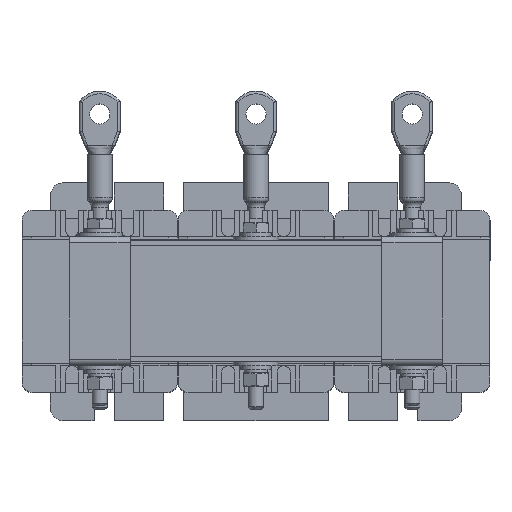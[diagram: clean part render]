
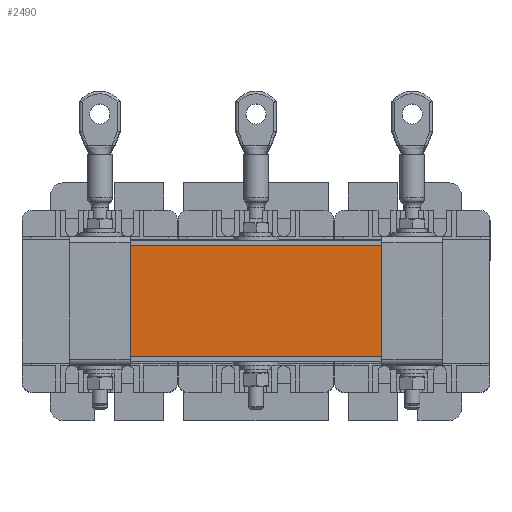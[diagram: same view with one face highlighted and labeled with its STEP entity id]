
A CAD part, top view. The second image highlights one B-rep face of the part: STEP entity #2490.
In plain terms, the highlighted planar face has unit normal (0, 0, 1).
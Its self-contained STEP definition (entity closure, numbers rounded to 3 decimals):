
#2490=ADVANCED_FACE('',(#3574),#3576,.T.);
#3574=FACE_BOUND('',#3575,.T.);
#3575=EDGE_LOOP('',(#6644,#6645,#6646,#6647));
#3576=PLANE('',#3577);
#3577=AXIS2_PLACEMENT_3D('',#3578,#3579,#3580);
#3578=CARTESIAN_POINT('',(0.,0.,76.1));
#3579=DIRECTION('',(0.,0.,1.));
#3580=DIRECTION('',(-1.,0.,0.));
#6644=ORIENTED_EDGE('',*,*,#7980,.T.);
#6645=ORIENTED_EDGE('',*,*,#7984,.T.);
#6646=ORIENTED_EDGE('',*,*,#7987,.T.);
#6647=ORIENTED_EDGE('',*,*,#7989,.T.);
#7980=EDGE_CURVE('',#8718,#8716,#8719,.T.);
#7984=EDGE_CURVE('',#8716,#8723,#8725,.T.);
#7987=EDGE_CURVE('',#8723,#8728,#8730,.T.);
#7989=EDGE_CURVE('',#8728,#8718,#8732,.T.);
#8716=VERTEX_POINT('',#9995);
#8718=VERTEX_POINT('',#9999);
#8719=LINE('',#10000,#10001);
#8723=VERTEX_POINT('',#10010);
#8725=LINE('',#10014,#10015);
#8728=VERTEX_POINT('',#10021);
#8730=LINE('',#10025,#10026);
#8732=LINE('',#10031,#10032);
#9995=CARTESIAN_POINT('',(-73.75,-22.,76.1));
#9999=CARTESIAN_POINT('',(-73.75,22.,76.1));
#10000=CARTESIAN_POINT('',(-73.75,22.,76.1));
#10001=VECTOR('',#10002,1.);
#10002=DIRECTION('',(0.,-1.,0.));
#10010=CARTESIAN_POINT('',(73.75,-22.,76.1));
#10014=CARTESIAN_POINT('',(-73.75,-22.,76.1));
#10015=VECTOR('',#10016,1.);
#10016=DIRECTION('',(1.,0.,0.));
#10021=CARTESIAN_POINT('',(73.75,22.,76.1));
#10025=CARTESIAN_POINT('',(73.75,-22.,76.1));
#10026=VECTOR('',#10027,1.);
#10027=DIRECTION('',(0.,1.,0.));
#10031=CARTESIAN_POINT('',(73.75,22.,76.1));
#10032=VECTOR('',#10033,1.);
#10033=DIRECTION('',(-1.,0.,0.));
